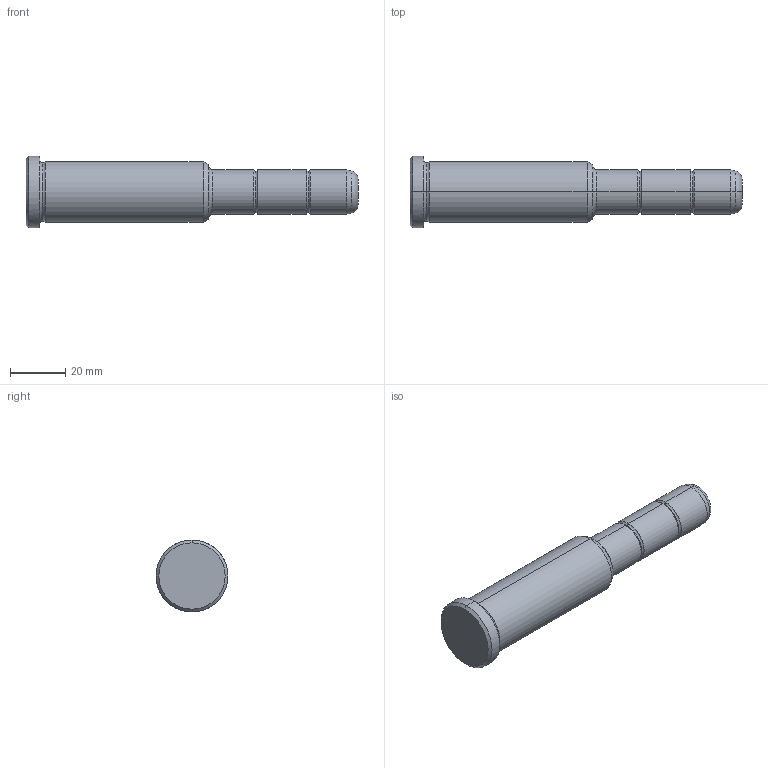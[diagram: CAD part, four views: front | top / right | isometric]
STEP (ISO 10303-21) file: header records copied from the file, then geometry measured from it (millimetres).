
FILE_DESCRIPTION(('CATIA V5 STEP Exchange'),'2;1');
FILE_NAME('C:\Users\Utente\Desktop\IO LAVORO\3D X SITO CF\X SITO\PLASTICA\351\351-16X66X120.stp','2021-08-18T11:46:02+00:00',('none'),('none'),'CATIA Version 5 Release 20 GA (IN-10)','CATIA V5 STEP AP203','none');
FILE_SCHEMA(('CONFIG_CONTROL_DESIGN'));
Length unit declared in the file: millimetre
Products named in the file (1): 351-16X66X120
Bounding box: 120 x 26 x 26 mm (x, y, z)
Volume: 36360.7 mm3; surface area: 8222 mm2
Topology: 1 solids, 1 shells, 36 faces, 102 edges, 70 vertices
Faces by surface type: torus 16, cylinder 10, cone 6, plane 4
Entity records: 1292 total; most frequent: CARTESIAN_POINT 321, ORIENTED_EDGE 204, DIRECTION 166, AXIS2_PLACEMENT_3D 115, EDGE_CURVE 102, CIRCLE 78, VERTEX_POINT 70, EDGE_LOOP 38
